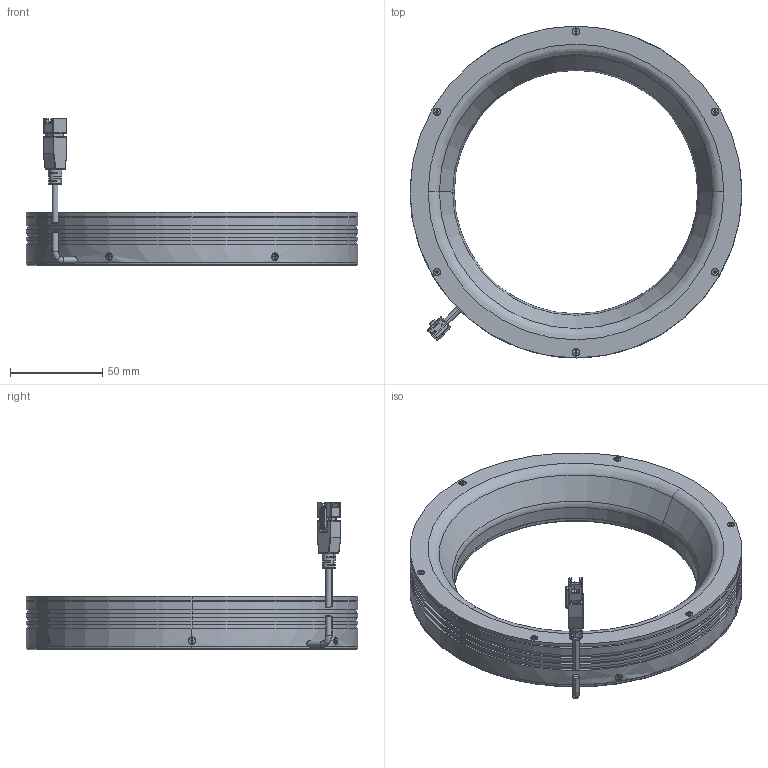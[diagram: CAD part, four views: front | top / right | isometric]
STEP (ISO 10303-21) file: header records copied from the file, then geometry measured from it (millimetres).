
FILE_DESCRIPTION((''),'2;1');
FILE_NAME('MV-LRDS-180-30_ASM','2019-09-19T',('rs-zhongwm'),(''),'PRO/ENGINEER BY PARAMETRIC TECHNOLOGY CORPORATION, 2010100','PRO/ENGINEER BY PARAMETRIC TECHNOLOGY CORPORATION, 2010100','');
FILE_SCHEMA(('CONFIG_CONTROL_DESIGN'));
Length unit declared in the file: millimetre
Products named in the file (10): P-RL-180-30-001_5; P-RL-180-30-002_4; P-RL-180-30_4; P-RL-180-30-003_1; PRT0056; PRT0057; ASSY_ASM_1_ASM; M2X5-SHIZHI_1; M2X6-SHIZI_2; MV-LRDS-180-30_ASM
Assembly tree (19 placements, depth 3):
  MV-LRDS-180-30_ASM
    P-RL-180-30-001_5
    P-RL-180-30-002_4
    P-RL-180-30_4
    P-RL-180-30-003_1
    ASSY_ASM_1_ASM
      PRT0056
      PRT0057
    M2X5-SHIZHI_1  x6
    M2X6-SHIZI_2  x6
Bounding box: 180 x 180 x 80.1 mm (x, y, z)
Volume: 171882.7 mm3; surface area: 145882.2 mm2
Topology: 18 solids, 18 shells, 773 faces, 1954 edges, 1215 vertices
Faces by surface type: plane 338, cylinder 272, cone 99, bspline 26, torus 20, sphere 18
Entity records: 17354 total; most frequent: CARTESIAN_POINT 4559, DIRECTION 2699, ORIENTED_EDGE 2568, EDGE_CURVE 1284, AXIS2_PLACEMENT_3D 1011, VERTEX_POINT 815, VECTOR 677, LINE 677
